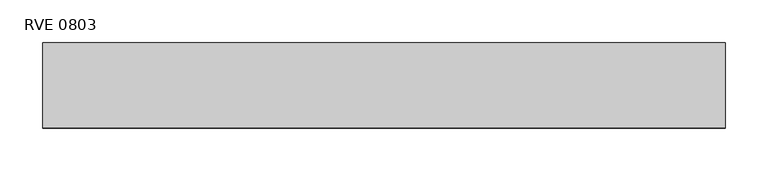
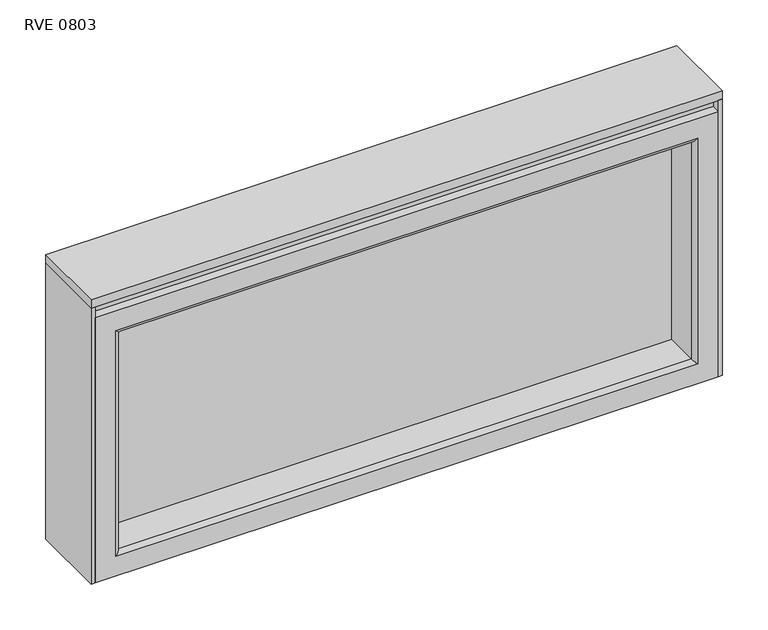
"""IFC4 building model written with IfcOpenShell, lengths in millimetres: furniture geometry, Mobiliário_MobiliáriodeEscritório_LinhaReasons_PainelEmpilhável381mm-Vidro_Marelli : RVE 0803."""

from ifc_helpers import new_model, si_unit, frame, origin, origin_with_axes, place, context, project, spatial, polyline, ellipse_curve, outline, extrude, source, transform, mapped, element, save
from ifc_brep_helpers import plane_surface, cylinder_surface, advanced_brep


def rve_0803_32e8251a(model_context):
    return source(origin(), model_context, "Body", "SolidModel", [
        extrude(outline(polyline([(795.0, 100.0), (800.0, 100.0), (800.0, 0.0), (795.0, 0.0), (795.0, 100.0)])), origin_with_axes(), (0.0, 0.0, 1.0), 370.0),
        extrude(outline(polyline([(800.0, 100.0), (800.0, 0.0), (0.0, 0.0), (0.0, 100.0), (800.0, 100.0)])), frame((0.0, 0.0, 370.0), z_axis=(0.0, 0.0, 1.0), x_axis=(1.0, 0.0, 0.0)), (0.0, 0.0, 1.0), 11.0),
        extrude(outline(polyline([(0.0, 100.0), (5.0, 100.0), (5.0, 0.0), (0.0, 0.0), (0.0, 100.0)])), origin_with_axes(), (0.0, 0.0, 1.0), 370.0),
        advanced_brep(
        [(763.5, 5.0, 323.5), (763.5, 95.0, 323.5), (763.5, 95.0, 31.5), (763.5, 5.0, 31.5), (795.0, 100.0, 355.0), (795.0, 0.0, 355.0), (795.0, 0.0, 0.0), (795.0, 100.0, 0.0), (36.5, 95.0, 31.5), (36.5, 5.0, 31.5), (5.0, 0.0, 0.0), (5.0, 100.0, 0.0), (36.5, 95.0, 323.5), (36.5, 5.0, 323.5), (5.0, 0.0, 355.0), (5.0, 100.0, 355.0), (768.5, 100.0, 328.5), (31.5, 100.0, 328.5), (31.5, 100.0, 26.5), (768.5, 100.0, 26.5), (768.5, 0.0, 26.5), (31.5, 0.0, 26.5), (31.5, 0.0, 328.5), (768.5, 0.0, 328.5)],
        [
            (0, 1),
            (1, 2),
            (2, 3),
            (3, 0),
            (4, 5),
            (5, 6),
            (6, 7),
            (7, 4),
            (2, 8),
            (8, 9),
            (9, 3),
            (6, 10),
            (10, 11),
            (11, 7),
            (8, 12),
            (12, 13),
            (13, 9),
            (10, 14),
            (14, 15),
            (15, 11),
            (15, 4),
            (16, 17),
            (17, 18),
            (18, 19),
            (19, 16),
            (12, 1),
            (0, 13),
            (5, 14),
            (20, 21),
            (21, 22),
            (22, 23),
            (23, 20),
            (1, 16, ellipse_curve(frame((768.5, 95.0, 328.5), z_axis=(0.7071067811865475, 0.0, -0.7071067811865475), x_axis=(0.7071067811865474, 0.0, 0.7071067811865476)), 7.0710678, 5.0)),
            (19, 2, ellipse_curve(frame((768.5, 95.0, 26.5), z_axis=(0.7071067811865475, 0.0, 0.7071067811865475), x_axis=(-0.7071067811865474, 0.0, 0.7071067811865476)), 7.0710678, 5.0)),
            (23, 0, ellipse_curve(frame((768.5, 5.0, 328.5), z_axis=(0.7071067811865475, 0.0, -0.7071067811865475), x_axis=(0.7071067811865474, 0.0, 0.7071067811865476)), 7.0710678, 5.0)),
            (3, 20, ellipse_curve(frame((768.5, 5.0, 26.5), z_axis=(0.7071067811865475, 0.0, 0.7071067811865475), x_axis=(-0.7071067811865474, 0.0, 0.7071067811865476)), 7.0710678, 5.0)),
            (18, 8, ellipse_curve(frame((31.5, 95.0, 26.5), z_axis=(0.7071067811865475, 0.0, -0.7071067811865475), x_axis=(0.7071067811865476, 0.0, 0.7071067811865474)), 7.0710678, 5.0)),
            (9, 21, ellipse_curve(frame((31.5, 5.0, 26.5), z_axis=(0.7071067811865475, 0.0, -0.7071067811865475), x_axis=(0.7071067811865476, 0.0, 0.7071067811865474)), 7.0710678, 5.0)),
            (17, 12, ellipse_curve(frame((31.5, 95.0, 328.5), z_axis=(-0.7071067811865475, 0.0, -0.7071067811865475), x_axis=(0.7071067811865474, 0.0, -0.7071067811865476)), 7.0710678, 5.0)),
            (13, 22, ellipse_curve(frame((31.5, 5.0, 328.5), z_axis=(-0.7071067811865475, 0.0, -0.7071067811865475), x_axis=(0.7071067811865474, 0.0, -0.7071067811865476)), 7.0710678, 5.0)),
        ],
        [
            plane_surface(frame((763.5, 95.0, 323.5), z_axis=(-1.0, 0.0, 0.0), x_axis=(0.0, 0.0, -1.0))),
            plane_surface(frame((795.0, 0.0, 355.0), z_axis=(1.0, 0.0, 0.0), x_axis=(0.0, 0.0, -1.0))),
            plane_surface(frame((763.5, 95.0, 31.5), z_axis=(0.0, 0.0, 1.0), x_axis=(-1.0, 0.0, 0.0))),
            plane_surface(frame((795.0, 0.0, 0.0), z_axis=(0.0, 0.0, -1.0), x_axis=(-1.0, 0.0, 0.0))),
            plane_surface(frame((36.5, 95.0, 31.5), z_axis=(1.0, 0.0, 0.0), x_axis=(0.0, 0.0, 1.0))),
            plane_surface(frame((5.0, 0.0, 0.0), z_axis=(-1.0, 0.0, 0.0), x_axis=(0.0, 0.0, 1.0))),
            plane_surface(frame((5.0, 100.0, 355.0), z_axis=(0.0, 1.0, 0.0), x_axis=(1.0, 0.0, 0.0))),
            plane_surface(frame((36.5, 95.0, 323.5), z_axis=(0.0, 0.0, -1.0), x_axis=(1.0, 0.0, 0.0))),
            plane_surface(frame((31.5, 0.0, 328.5), z_axis=(0.0, -1.0, 0.0), x_axis=(1.0, 0.0, 0.0))),
            plane_surface(frame((5.0, 0.0, 355.0), z_axis=(0.0, 0.0, 1.0), x_axis=(1.0, 0.0, 0.0))),
            cylinder_surface(frame((768.5, 95.0, 355.0), z_axis=(0.0, 0.0, 1.0), x_axis=(1.0, 0.0, 0.0)), 5.0),
            cylinder_surface(frame((768.5, 5.0, 355.0), z_axis=(0.0, 0.0, 1.0), x_axis=(1.0, 0.0, 0.0)), 5.0),
            cylinder_surface(frame((795.0, 95.0, 26.5), z_axis=(1.0, 0.0, 0.0), x_axis=(0.0, 0.0, -1.0)), 5.0),
            cylinder_surface(frame((795.0, 5.0, 26.5), z_axis=(1.0, 0.0, 0.0), x_axis=(0.0, 0.0, -1.0)), 5.0),
            cylinder_surface(frame((31.5, 95.0, 0.0), z_axis=(0.0, 0.0, -1.0), x_axis=(-1.0, 0.0, 0.0)), 5.0),
            cylinder_surface(frame((31.5, 5.0, 0.0), z_axis=(0.0, 0.0, -1.0), x_axis=(-1.0, 0.0, 0.0)), 5.0),
            cylinder_surface(frame((5.0, 95.0, 328.5), z_axis=(-1.0, 0.0, 0.0), x_axis=(0.0, 0.0, 1.0)), 5.0),
            cylinder_surface(frame((5.0, 5.0, 328.5), z_axis=(-1.0, 0.0, 0.0), x_axis=(0.0, 0.0, 1.0)), 5.0),
        ],
        [
            (0, [[1, 2, 3, 4]]),
            (1, [[5, 6, 7, 8]]),
            (2, [[-3, 9, 10, 11]]),
            (3, [[-7, 12, 13, 14]]),
            (4, [[-10, 15, 16, 17]]),
            (5, [[-13, 18, 19, 20]]),
            (6, [[-14, -20, 21, -8], [22, 23, 24, 25]]),
            (7, [[-16, 26, -1, 27]]),
            (8, [[28, -18, -12, -6], [29, 30, 31, 32]]),
            (9, [[-19, -28, -5, -21]]),
            (10, [[33, -25, 34, -2]]),
            (11, [[35, -4, 36, -32]]),
            (12, [[-34, -24, 37, -9]]),
            (13, [[-36, -11, 38, -29]]),
            (14, [[-37, -23, 39, -15]]),
            (15, [[-38, -17, 40, -30]]),
            (16, [[-39, -22, -33, -26]]),
            (17, [[-40, -27, -35, -31]]),
        ],
    ),
        extrude(outline(polyline([(5.0, 11.0), (5.0, 89.0), (795.0, 89.0), (795.0, 11.0), (5.0, 11.0)])), frame((0.0, 0.0, 355.0), z_axis=(0.0, 0.0, 1.0), x_axis=(1.0, 0.0, 0.0)), (0.0, 0.0, 1.0), 15.0),
        extrude(outline(polyline([(763.5, 52.0), (763.5, 48.0), (36.5677845, 48.0), (36.5677845, 52.0), (763.5, 52.0)])), frame((0.0, 0.0, 31.5), z_axis=(0.0, 0.0, 1.0), x_axis=(1.0, 0.0, 0.0)), (0.0, 0.0, 1.0), 292.0),
    ])


if __name__ == "__main__":
    model = new_model("IFC4")
    model_context = context("Model", 3, world=origin())
    ifc_project = project(units=[si_unit("LENGTHUNIT", "METRE", prefix="MILLI")], contexts=[model_context])
    site = spatial("IfcSite", under=ifc_project)
    building = spatial("IfcBuilding", under=site)
    placement = place(None, origin())
    rve_0803_shape = rve_0803_32e8251a(model_context)
    element("IfcFurniture", 1, ObjectType="Mobiliário_MobiliáriodeEscritório_LinhaReasons_PainelEmpilhável381mm-Vidro_Marelli : RVE 0803", at=placement, inside=building, context=model_context, shape_type="MappedRepresentation", body=[
        mapped(rve_0803_shape, transform((0.0, 0.0, 0.0), x_axis=(1.0, 0.0, 0.0), y_axis=(0.0, 1.0, 0.0), z_axis=(0.0, 0.0, 1.0))),
    ])
    save(model, "model.ifc")
